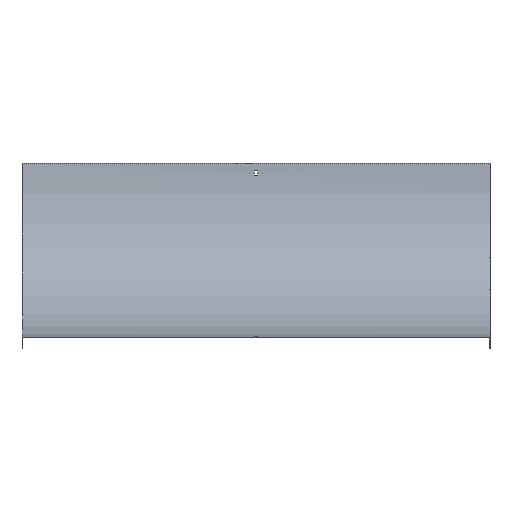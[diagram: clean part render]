
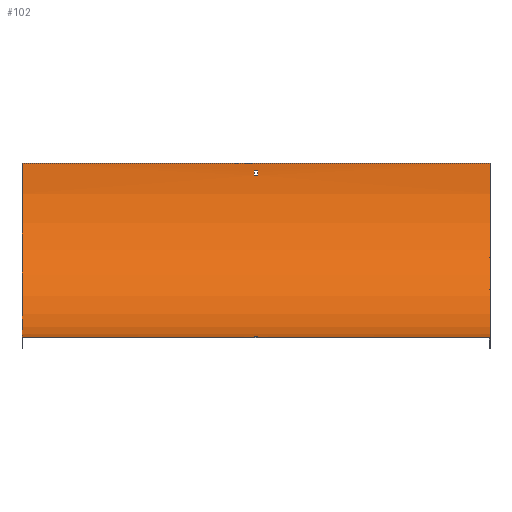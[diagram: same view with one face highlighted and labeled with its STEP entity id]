
A CAD part, top view. The second image highlights one B-rep face of the part: STEP entity #102.
In plain terms, the highlighted cylindrical face has radius 298.5 mm (diameter 597 mm), a partial arc.
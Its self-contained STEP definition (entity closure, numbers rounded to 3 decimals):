
#7 = CIRCLE ( 'NONE', #126, 298.5 ) ;
#21 = CARTESIAN_POINT ( 'NONE',  ( 3.25, 298.5, 0. ) ) ;
#22 = EDGE_CURVE ( 'NONE', #50, #244, #7, .T. ) ;
#39 = VECTOR ( 'NONE', #409, 1000. ) ;
#49 = DIRECTION ( 'NONE',  ( -1., 0., 0. ) ) ;
#50 = VERTEX_POINT ( 'NONE', #446 ) ;
#52 = CIRCLE ( 'NONE', #564, 298.5 ) ;
#53 = VERTEX_POINT ( 'NONE', #588 ) ;
#55 = EDGE_LOOP ( 'NONE', ( #342, #92, #304, #562 ) ) ;
#79 = DIRECTION ( 'NONE',  ( -1., 0., 0. ) ) ;
#86 = VECTOR ( 'NONE', #79, 1000. ) ;
#92 = ORIENTED_EDGE ( 'NONE', *, *, #586, .F. ) ;
#95 = EDGE_CURVE ( 'NONE', #53, #143, #447, .T. ) ;
#101 = ORIENTED_EDGE ( 'NONE', *, *, #295, .F. ) ;
#102 = ADVANCED_FACE ( 'NONE', ( #580, #274, #452 ), #549, .F. ) ;
#104 = VERTEX_POINT ( 'NONE', #130 ) ;
#123 = DIRECTION ( 'NONE',  ( 1., 0., 0. ) ) ;
#126 = AXIS2_PLACEMENT_3D ( 'NONE', #435, #153, #340 ) ;
#130 = CARTESIAN_POINT ( 'NONE',  ( -401.5, 298.5, -298.5 ) ) ;
#134 = CARTESIAN_POINT ( 'NONE',  ( 401.5, 0., 0. ) ) ;
#140 = CARTESIAN_POINT ( 'NONE',  ( 401.5, 298.5, -298.5 ) ) ;
#141 = EDGE_CURVE ( 'NONE', #143, #232, #405, .T. ) ;
#143 = VERTEX_POINT ( 'NONE', #461 ) ;
#144 = AXIS2_PLACEMENT_3D ( 'NONE', #306, #262, #457 ) ;
#151 = VECTOR ( 'NONE', #398, 1000. ) ;
#152 = CARTESIAN_POINT ( 'NONE',  ( -401.5, 0., 0. ) ) ;
#153 = DIRECTION ( 'NONE',  ( 1., 0., 0. ) ) ;
#155 = ORIENTED_EDGE ( 'NONE', *, *, #400, .F. ) ;
#159 = LINE ( 'NONE', #255, #151 ) ;
#186 = CIRCLE ( 'NONE', #573, 298.5 ) ;
#203 = DIRECTION ( 'NONE',  ( 1., 0., 0. ) ) ;
#207 = DIRECTION ( 'NONE',  ( -1., 0., 0. ) ) ;
#211 = EDGE_CURVE ( 'NONE', #314, #53, #221, .T. ) ;
#212 = AXIS2_PLACEMENT_3D ( 'NONE', #315, #505, #293 ) ;
#221 = LINE ( 'NONE', #454, #39 ) ;
#230 = DIRECTION ( 'NONE',  ( -1., 0., 0. ) ) ;
#232 = VERTEX_POINT ( 'NONE', #606 ) ;
#244 = VERTEX_POINT ( 'NONE', #264 ) ;
#246 = ORIENTED_EDGE ( 'NONE', *, *, #95, .T. ) ;
#255 = CARTESIAN_POINT ( 'NONE',  ( 401.5, 286.5, -298.259 ) ) ;
#261 = DIRECTION ( 'NONE',  ( 0., 0., 1. ) ) ;
#262 = DIRECTION ( 'NONE',  ( -1., 0., 0. ) ) ;
#264 = CARTESIAN_POINT ( 'NONE',  ( 3.25, 286.5, -298.259 ) ) ;
#266 = DIRECTION ( 'NONE',  ( -1., 0., 0. ) ) ;
#273 = DIRECTION ( 'NONE',  ( -1., 0., 0. ) ) ;
#274 = FACE_BOUND ( 'NONE', #389, .T. ) ;
#278 = VERTEX_POINT ( 'NONE', #134 ) ;
#280 = VERTEX_POINT ( 'NONE', #317 ) ;
#293 = DIRECTION ( 'NONE',  ( 0., 0., 1. ) ) ;
#295 = EDGE_CURVE ( 'NONE', #513, #50, #465, .T. ) ;
#298 = VERTEX_POINT ( 'NONE', #152 ) ;
#304 = ORIENTED_EDGE ( 'NONE', *, *, #501, .F. ) ;
#305 = LINE ( 'NONE', #494, #497 ) ;
#306 = CARTESIAN_POINT ( 'NONE',  ( 401.5, 298.5, 0. ) ) ;
#309 = CARTESIAN_POINT ( 'NONE',  ( 401.5, 298.5, 0. ) ) ;
#314 = VERTEX_POINT ( 'NONE', #538 ) ;
#315 = CARTESIAN_POINT ( 'NONE',  ( -401.5, 298.5, 0. ) ) ;
#317 = CARTESIAN_POINT ( 'NONE',  ( -3.25, 286.5, -298.259 ) ) ;
#325 = EDGE_CURVE ( 'NONE', #232, #314, #186, .T. ) ;
#336 = CIRCLE ( 'NONE', #487, 298.5 ) ;
#340 = DIRECTION ( 'NONE',  ( 0., 0., 1. ) ) ;
#342 = ORIENTED_EDGE ( 'NONE', *, *, #563, .T. ) ;
#364 = ORIENTED_EDGE ( 'NONE', *, *, #22, .F. ) ;
#385 = EDGE_LOOP ( 'NONE', ( #484, #155, #364, #101 ) ) ;
#389 = EDGE_LOOP ( 'NONE', ( #536, #504, #561, #246 ) ) ;
#392 = DIRECTION ( 'NONE',  ( 0., 0., -1. ) ) ;
#397 = CIRCLE ( 'NONE', #212, 298.5 ) ;
#398 = DIRECTION ( 'NONE',  ( -1., 0., 0. ) ) ;
#400 = EDGE_CURVE ( 'NONE', #244, #280, #159, .T. ) ;
#405 = LINE ( 'NONE', #419, #86 ) ;
#409 = DIRECTION ( 'NONE',  ( 1., 0., 0. ) ) ;
#417 = EDGE_CURVE ( 'NONE', #510, #104, #305, .T. ) ;
#419 = CARTESIAN_POINT ( 'NONE',  ( 401.5, 0.241, -12. ) ) ;
#423 = VECTOR ( 'NONE', #203, 1000. ) ;
#426 = CARTESIAN_POINT ( 'NONE',  ( 401.5, 277.5, -297.76 ) ) ;
#435 = CARTESIAN_POINT ( 'NONE',  ( 3.25, 298.5, 0. ) ) ;
#445 = CARTESIAN_POINT ( 'NONE',  ( -3.25, 298.5, 0. ) ) ;
#446 = CARTESIAN_POINT ( 'NONE',  ( 3.25, 277.5, -297.76 ) ) ;
#447 = CIRCLE ( 'NONE', #470, 298.5 ) ;
#452 = FACE_BOUND ( 'NONE', #385, .T. ) ;
#454 = CARTESIAN_POINT ( 'NONE',  ( 401.5, 0.74, -21. ) ) ;
#457 = DIRECTION ( 'NONE',  ( 0., 0., 1. ) ) ;
#461 = CARTESIAN_POINT ( 'NONE',  ( 3.25, 0.241, -12. ) ) ;
#463 = DIRECTION ( 'NONE',  ( 0., 1., 0. ) ) ;
#465 = LINE ( 'NONE', #426, #423 ) ;
#470 = AXIS2_PLACEMENT_3D ( 'NONE', #21, #207, #392 ) ;
#483 = CARTESIAN_POINT ( 'NONE',  ( 401.5, 0., 0. ) ) ;
#484 = ORIENTED_EDGE ( 'NONE', *, *, #557, .F. ) ;
#487 = AXIS2_PLACEMENT_3D ( 'NONE', #511, #230, #463 ) ;
#494 = CARTESIAN_POINT ( 'NONE',  ( 401.5, 298.5, -298.5 ) ) ;
#497 = VECTOR ( 'NONE', #273, 1000. ) ;
#501 = EDGE_CURVE ( 'NONE', #510, #278, #52, .T. ) ;
#504 = ORIENTED_EDGE ( 'NONE', *, *, #325, .T. ) ;
#505 = DIRECTION ( 'NONE',  ( -1., 0., 0. ) ) ;
#510 = VERTEX_POINT ( 'NONE', #140 ) ;
#511 = CARTESIAN_POINT ( 'NONE',  ( -3.25, 298.5, 0. ) ) ;
#513 = VERTEX_POINT ( 'NONE', #600 ) ;
#524 = LINE ( 'NONE', #483, #535 ) ;
#535 = VECTOR ( 'NONE', #49, 1000. ) ;
#536 = ORIENTED_EDGE ( 'NONE', *, *, #141, .T. ) ;
#538 = CARTESIAN_POINT ( 'NONE',  ( -3.25, 0.74, -21. ) ) ;
#549 = CYLINDRICAL_SURFACE ( 'NONE', #144, 298.5 ) ;
#557 = EDGE_CURVE ( 'NONE', #280, #513, #336, .T. ) ;
#561 = ORIENTED_EDGE ( 'NONE', *, *, #211, .T. ) ;
#562 = ORIENTED_EDGE ( 'NONE', *, *, #417, .T. ) ;
#563 = EDGE_CURVE ( 'NONE', #104, #298, #397, .T. ) ;
#564 = AXIS2_PLACEMENT_3D ( 'NONE', #309, #266, #261 ) ;
#571 = DIRECTION ( 'NONE',  ( 0., 0., 1. ) ) ;
#573 = AXIS2_PLACEMENT_3D ( 'NONE', #445, #123, #571 ) ;
#580 = FACE_OUTER_BOUND ( 'NONE', #55, .T. ) ;
#586 = EDGE_CURVE ( 'NONE', #278, #298, #524, .T. ) ;
#588 = CARTESIAN_POINT ( 'NONE',  ( 3.25, 0.74, -21. ) ) ;
#600 = CARTESIAN_POINT ( 'NONE',  ( -3.25, 277.5, -297.76 ) ) ;
#606 = CARTESIAN_POINT ( 'NONE',  ( -3.25, 0.241, -12. ) ) ;
